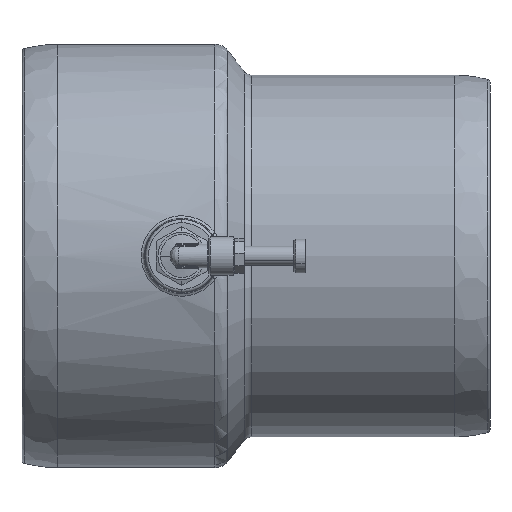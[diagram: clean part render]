
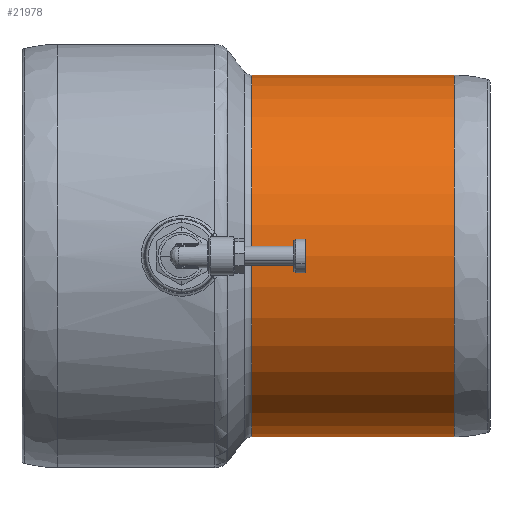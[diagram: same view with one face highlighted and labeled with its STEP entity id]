
A CAD part, front view. The second image highlights one B-rep face of the part: STEP entity #21978.
In plain terms, the highlighted cylindrical face has radius 55.85 mm (diameter 111.7 mm), a partial arc.
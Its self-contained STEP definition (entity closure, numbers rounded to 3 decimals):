
#180 = FACE_OUTER_BOUND ( 'NONE', #5650, .T. ) ;
#539 = CARTESIAN_POINT ( 'NONE',  ( 56.228, 0., 55.85 ) ) ;
#1917 = CARTESIAN_POINT ( 'NONE',  ( 56.228, 0., 0. ) ) ;
#2904 = ORIENTED_EDGE ( 'NONE', *, *, #31819, .T. ) ;
#3178 = DIRECTION ( 'NONE',  ( 1., 0., 0. ) ) ;
#5170 = DIRECTION ( 'NONE',  ( 0., 0., -1. ) ) ;
#5650 = EDGE_LOOP ( 'NONE', ( #18208, #25827, #2904, #28890 ) ) ;
#5944 = DIRECTION ( 'NONE',  ( 0., 0., -1. ) ) ;
#7051 = EDGE_CURVE ( 'NONE', #22339, #10207, #28489, .T. ) ;
#8173 = CARTESIAN_POINT ( 'NONE',  ( -6.279, 0., -55.85 ) ) ;
#8888 = AXIS2_PLACEMENT_3D ( 'NONE', #1917, #32851, #24663 ) ;
#9025 = VECTOR ( 'NONE', #3178, 1000. ) ;
#9867 = CARTESIAN_POINT ( 'NONE',  ( 86.518, 0., 0. ) ) ;
#10207 = VERTEX_POINT ( 'NONE', #8173 ) ;
#10791 = DIRECTION ( 'NONE',  ( 1., 0., 0. ) ) ;
#14052 = AXIS2_PLACEMENT_3D ( 'NONE', #29177, #10791, #5944 ) ;
#14456 = EDGE_CURVE ( 'NONE', #22339, #30208, #21065, .T. ) ;
#15298 = VERTEX_POINT ( 'NONE', #19800 ) ;
#18208 = ORIENTED_EDGE ( 'NONE', *, *, #14456, .F. ) ;
#18517 = VECTOR ( 'NONE', #28870, 1000. ) ;
#18615 = AXIS2_PLACEMENT_3D ( 'NONE', #9867, #30458, #5170 ) ;
#19318 = CARTESIAN_POINT ( 'NONE',  ( 86.518, 0., -55.85 ) ) ;
#19800 = CARTESIAN_POINT ( 'NONE',  ( 56.228, 0., -55.85 ) ) ;
#21065 = LINE ( 'NONE', #28439, #9025 ) ;
#21828 = LINE ( 'NONE', #19318, #18517 ) ;
#21978 = ADVANCED_FACE ( 'NONE', ( #180 ), #28104, .T. ) ;
#22339 = VERTEX_POINT ( 'NONE', #25823 ) ;
#24462 = CIRCLE ( 'NONE', #8888, 55.85 ) ;
#24663 = DIRECTION ( 'NONE',  ( 0., 0., -1. ) ) ;
#25823 = CARTESIAN_POINT ( 'NONE',  ( -6.279, 0., 55.85 ) ) ;
#25827 = ORIENTED_EDGE ( 'NONE', *, *, #7051, .T. ) ;
#28104 = CYLINDRICAL_SURFACE ( 'NONE', #18615, 55.85 ) ;
#28439 = CARTESIAN_POINT ( 'NONE',  ( 86.518, 0., 55.85 ) ) ;
#28489 = CIRCLE ( 'NONE', #14052, 55.85 ) ;
#28870 = DIRECTION ( 'NONE',  ( 1., 0., 0. ) ) ;
#28890 = ORIENTED_EDGE ( 'NONE', *, *, #31945, .F. ) ;
#29177 = CARTESIAN_POINT ( 'NONE',  ( -6.279, 0., 0. ) ) ;
#30208 = VERTEX_POINT ( 'NONE', #539 ) ;
#30458 = DIRECTION ( 'NONE',  ( 1., 0., 0. ) ) ;
#31819 = EDGE_CURVE ( 'NONE', #10207, #15298, #21828, .T. ) ;
#31945 = EDGE_CURVE ( 'NONE', #30208, #15298, #24462, .T. ) ;
#32851 = DIRECTION ( 'NONE',  ( 1., 0., 0. ) ) ;
